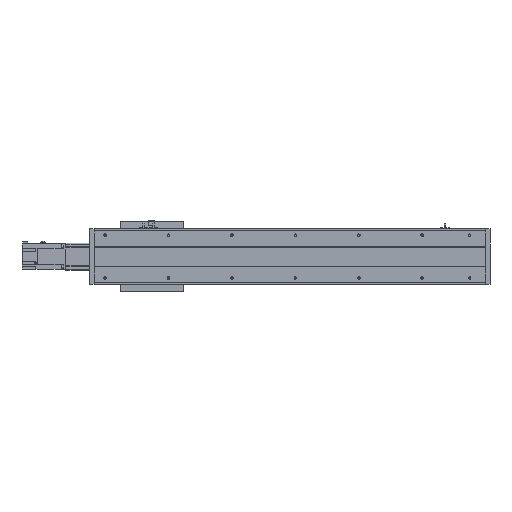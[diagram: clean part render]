
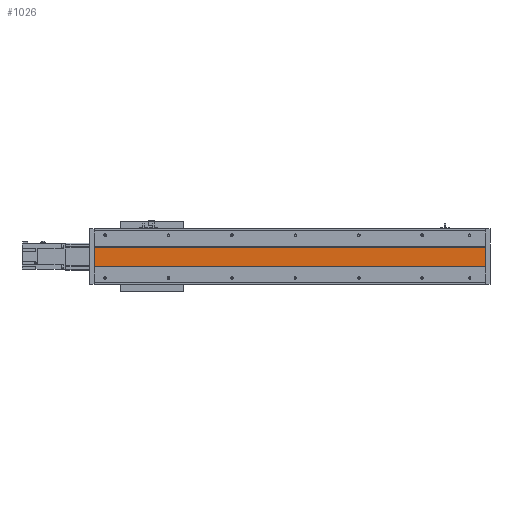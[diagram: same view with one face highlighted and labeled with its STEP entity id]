
A CAD part, front view. The second image highlights one B-rep face of the part: STEP entity #1026.
In plain terms, the highlighted planar face has unit normal (0, -1, 0).
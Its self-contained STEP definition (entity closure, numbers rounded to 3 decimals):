
#1026 = ADVANCED_FACE( '', ( #2367 ), #2368, .F. );
#2367 = FACE_OUTER_BOUND( '', #4128, .T. );
#2368 = PLANE( '', #4129 );
#4128 = EDGE_LOOP( '', ( #6742, #6743, #6744, #6745 ) );
#4129 = AXIS2_PLACEMENT_3D( '', #6746, #6747, #6748 );
#6742 = ORIENTED_EDGE( '', *, *, #10921, .F. );
#6743 = ORIENTED_EDGE( '', *, *, #10922, .T. );
#6744 = ORIENTED_EDGE( '', *, *, #10923, .T. );
#6745 = ORIENTED_EDGE( '', *, *, #10257, .F. );
#6746 = CARTESIAN_POINT( '', ( 1263., 1., 30. ) );
#6747 = DIRECTION( '', ( 0., 1., 0. ) );
#6748 = DIRECTION( '', ( 0., 0., 1. ) );
#10257 = EDGE_CURVE( '', #12227, #12230, #12231, .T. );
#10921 = EDGE_CURVE( '', #13356, #12227, #13357, .T. );
#10922 = EDGE_CURVE( '', #13356, #13358, #13359, .T. );
#10923 = EDGE_CURVE( '', #13358, #12230, #13360, .T. );
#12227 = VERTEX_POINT( '', #15095 );
#12230 = VERTEX_POINT( '', #15099 );
#12231 = LINE( '', #15100, #15101 );
#13356 = VERTEX_POINT( '', #16653 );
#13357 = LINE( '', #16654, #16655 );
#13358 = VERTEX_POINT( '', #16656 );
#13359 = LINE( '', #16657, #16658 );
#13360 = LINE( '', #16659, #16660 );
#15095 = CARTESIAN_POINT( '', ( 1249., 1., -30. ) );
#15099 = CARTESIAN_POINT( '', ( 14., 1., -30. ) );
#15100 = CARTESIAN_POINT( '', ( 1263., 1., -30. ) );
#15101 = VECTOR( '', #18788, 1000. );
#16653 = CARTESIAN_POINT( '', ( 1249., 1., 30. ) );
#16654 = CARTESIAN_POINT( '', ( 1249., 1., 30. ) );
#16655 = VECTOR( '', #19528, 1000. );
#16656 = CARTESIAN_POINT( '', ( 14., 1., 30. ) );
#16657 = CARTESIAN_POINT( '', ( 1263., 1., 30. ) );
#16658 = VECTOR( '', #19529, 1000. );
#16659 = CARTESIAN_POINT( '', ( 14., 1., 30. ) );
#16660 = VECTOR( '', #19530, 1000. );
#18788 = DIRECTION( '', ( -1., 0., 0. ) );
#19528 = DIRECTION( '', ( 0., 0., -1. ) );
#19529 = DIRECTION( '', ( -1., 0., 0. ) );
#19530 = DIRECTION( '', ( 0., 0., -1. ) );
